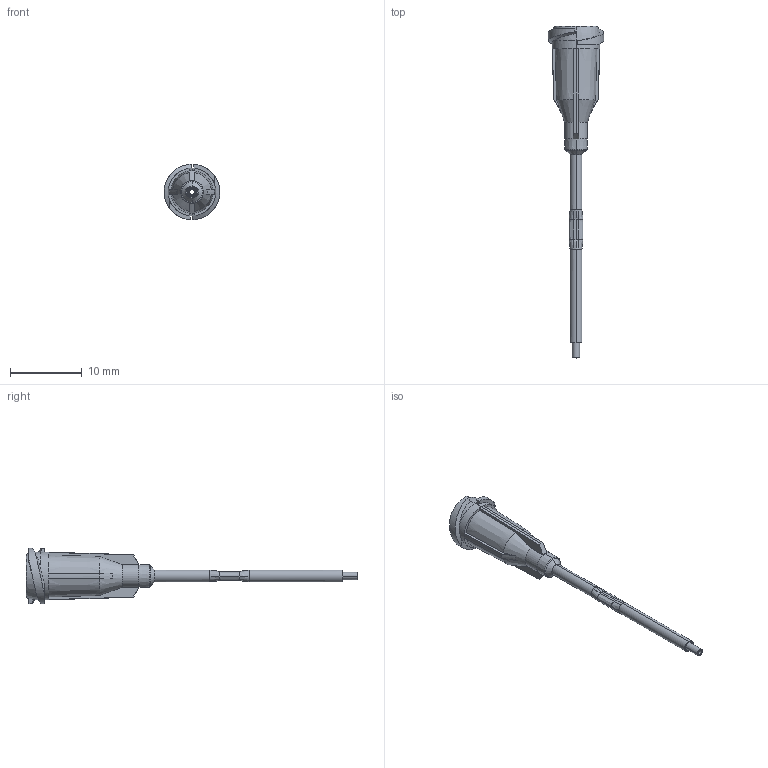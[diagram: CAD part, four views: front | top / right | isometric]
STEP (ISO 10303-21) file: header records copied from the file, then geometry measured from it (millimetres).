
FILE_DESCRIPTION (( 'STEP AP214' ), '1' );
FILE_NAME ('NORDSONEFD-7018248 TIP 21GA TLC 020 X 1 1-2 GY.STEP', '2019-04-02T06:50:57', ( '' ), ( '' ), 'SwSTEP 2.0', 'SolidWorks 2019', '' );
FILE_SCHEMA (( 'AUTOMOTIVE_DESIGN' ));
Length unit declared in the file: inch
Products named in the file (1): NORDSONEFD-7018248 TIP 21GA TLC 020 X 1 1-2 GY
Bounding box: 7.77 x 46.43 x 7.77 mm (x, y, z)
Volume: 288.5 mm3; surface area: 994.1 mm2
Topology: 1 solids, 1 shells, 171 faces, 445 edges, 275 vertices
Faces by surface type: bspline 60, plane 39, cone 27, cylinder 26, torus 19
Entity records: 15487 total; most frequent: CARTESIAN_POINT 11254, ORIENTED_EDGE 890, DIRECTION 599, EDGE_CURVE 445, VERTEX_POINT 275, AXIS2_PLACEMENT_3D 247, B_SPLINE_CURVE_WITH_KNOTS 191, EDGE_LOOP 180
